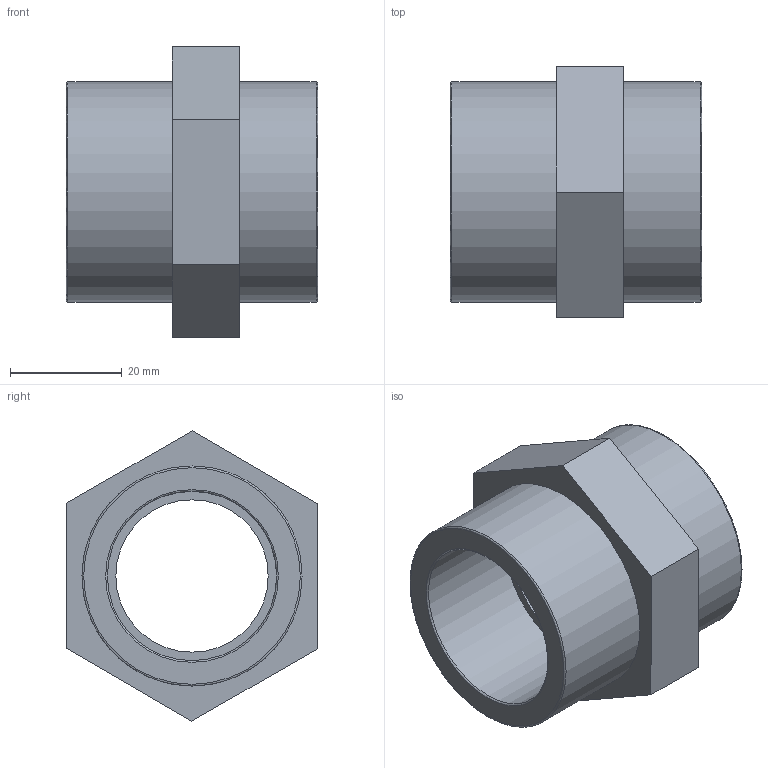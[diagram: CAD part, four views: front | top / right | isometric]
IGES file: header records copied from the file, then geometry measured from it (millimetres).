
Global section: file name: 050101010.ipt; native system: Autodesk Inventor 2015; preprocessor: unknown; author: KIM; date: 20171207.164036; units: millimetre
Bounding box: 45 x 45.07 x 51.96 mm (x, y, z)
Volume: 29481.7 mm3; surface area: 12470.8 mm2
Topology: 1 solids, 1 shells, 21 faces, 55 edges, 40 vertices
Faces by surface type: plane 12, revolution 7, cylinder 2
Full cylindrical faces by diameter (mm): 39.378 x2
